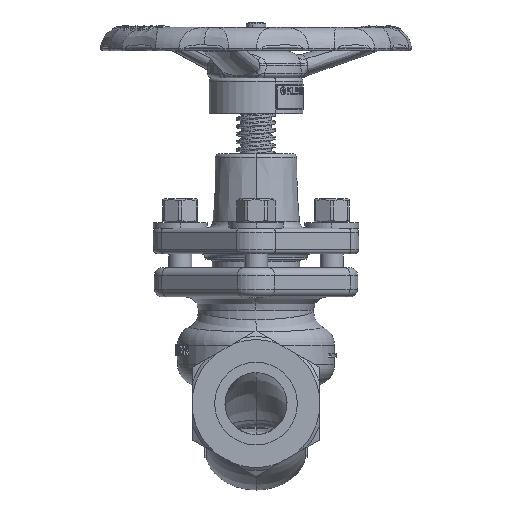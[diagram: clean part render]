
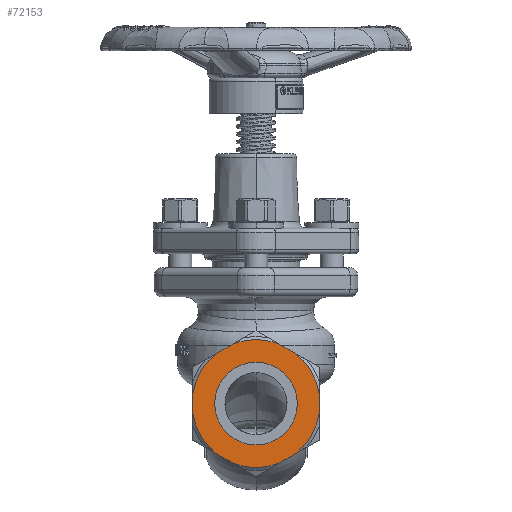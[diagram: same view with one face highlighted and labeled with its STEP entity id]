
A CAD part, left-side view. The second image highlights one B-rep face of the part: STEP entity #72153.
In plain terms, the highlighted planar face has unit normal (-1, 0, 0).
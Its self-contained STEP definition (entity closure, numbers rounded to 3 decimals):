
#14688=DIRECTION('',(0.,0.866,0.5));
#14689=VECTOR('',#14688,10.452);
#14690=CARTESIAN_POINT('',(-80.,-20.776,25.533));
#14691=LINE('',#14690,#14689);
#14696=CARTESIAN_POINT('',(-80.,0.,0.));
#14697=DIRECTION('',(1.,0.,0.));
#14698=DIRECTION('',(0.,0.,1.));
#14699=AXIS2_PLACEMENT_3D('',#14696,#14697,#14698);
#14701=CARTESIAN_POINT('',(-80.,0.,0.));
#14702=DIRECTION('',(1.,0.,0.));
#14703=DIRECTION('',(0.,0.,-1.));
#14704=AXIS2_PLACEMENT_3D('',#14701,#14702,#14703);
#14720=CARTESIAN_POINT('',(-80.,0.,0.));
#14721=DIRECTION('',(-1.,0.,0.));
#14722=DIRECTION('',(0.,0.356,-0.934));
#14723=AXIS2_PLACEMENT_3D('',#14720,#14721,#14722);
#14756=DIRECTION('',(0.,-0.866,0.5));
#14757=VECTOR('',#14756,10.452);
#14758=CARTESIAN_POINT('',(-80.,-11.724,-30.759));
#14759=LINE('',#14758,#14757);
#14764=CARTESIAN_POINT('',(-80.,0.,0.));
#14765=DIRECTION('',(-1.,0.,0.));
#14766=DIRECTION('',(0.,-0.631,-0.776));
#14767=AXIS2_PLACEMENT_3D('',#14764,#14765,#14766);
#14787=DIRECTION('',(0.,0.,1.));
#14788=VECTOR('',#14787,10.452);
#14789=CARTESIAN_POINT('',(-80.,-32.5,-5.226));
#14790=LINE('',#14789,#14788);
#14795=CARTESIAN_POINT('',(-80.,0.,0.));
#14796=DIRECTION('',(-1.,0.,0.));
#14797=DIRECTION('',(0.,-0.987,0.159));
#14798=AXIS2_PLACEMENT_3D('',#14795,#14796,#14797);
#14994=DIRECTION('',(0.,-0.866,-0.5));
#14995=VECTOR('',#14994,10.452);
#14996=CARTESIAN_POINT('',(-80.,20.776,-25.533));
#14997=LINE('',#14996,#14995);
#15041=DIRECTION('',(0.,0.,-1.));
#15042=VECTOR('',#15041,10.452);
#15043=CARTESIAN_POINT('',(-80.,32.5,5.226));
#15044=LINE('',#15043,#15042);
#15049=CARTESIAN_POINT('',(-80.,0.,0.));
#15050=DIRECTION('',(-1.,0.,0.));
#15051=DIRECTION('',(0.,0.987,-0.159));
#15052=AXIS2_PLACEMENT_3D('',#15049,#15050,#15051);
#15138=DIRECTION('',(0.,0.866,-0.5));
#15139=VECTOR('',#15138,10.452);
#15140=CARTESIAN_POINT('',(-80.,11.724,30.759));
#15141=LINE('',#15140,#15139);
#15146=CARTESIAN_POINT('',(-80.,0.,0.));
#15147=DIRECTION('',(-1.,0.,0.));
#15148=DIRECTION('',(0.,0.631,0.776));
#15149=AXIS2_PLACEMENT_3D('',#15146,#15147,#15148);
#15218=CARTESIAN_POINT('',(-80.,0.,0.));
#15219=DIRECTION('',(-1.,0.,0.));
#15220=DIRECTION('',(0.,-0.356,0.934));
#15221=AXIS2_PLACEMENT_3D('',#15218,#15219,#15220);
#40099=CARTESIAN_POINT('',(-80.,-20.776,-25.533));
#40100=CARTESIAN_POINT('',(-80.,-32.5,-5.226));
#40101=VERTEX_POINT('',#40099);
#40102=VERTEX_POINT('',#40100);
#40103=CARTESIAN_POINT('',(-80.,-32.5,5.226));
#40104=CARTESIAN_POINT('',(-80.,-20.776,25.533));
#40105=VERTEX_POINT('',#40103);
#40106=VERTEX_POINT('',#40104);
#40107=CARTESIAN_POINT('',(-80.,20.776,25.533));
#40108=CARTESIAN_POINT('',(-80.,32.5,5.226));
#40109=VERTEX_POINT('',#40107);
#40110=VERTEX_POINT('',#40108);
#40111=CARTESIAN_POINT('',(-80.,32.5,-5.226));
#40112=CARTESIAN_POINT('',(-80.,20.776,-25.533));
#40113=VERTEX_POINT('',#40111);
#40114=VERTEX_POINT('',#40112);
#40131=CARTESIAN_POINT('',(-80.,-11.724,-30.759));
#40132=VERTEX_POINT('',#40131);
#40135=CARTESIAN_POINT('',(-80.,-11.724,30.759));
#40136=VERTEX_POINT('',#40135);
#40139=CARTESIAN_POINT('',(-80.,11.724,30.759));
#40140=VERTEX_POINT('',#40139);
#40143=CARTESIAN_POINT('',(-80.,11.724,-30.759));
#40144=VERTEX_POINT('',#40143);
#40205=CARTESIAN_POINT('',(-80.,0.,21.3));
#40206=VERTEX_POINT('',#40205);
#40209=CARTESIAN_POINT('',(-80.,0.,-21.3));
#40210=VERTEX_POINT('',#40209);
#72117=CARTESIAN_POINT('',(-80.,0.,0.));
#72118=DIRECTION('',(-1.,0.,0.));
#72119=DIRECTION('',(0.,0.,1.));
#72120=AXIS2_PLACEMENT_3D('',#72117,#72118,#72119);
#72121=PLANE('',#72120);
#72123=ORIENTED_EDGE('',*,*,#72122,.F.);
#72125=ORIENTED_EDGE('',*,*,#72124,.F.);
#72127=ORIENTED_EDGE('',*,*,#72126,.F.);
#72129=ORIENTED_EDGE('',*,*,#72128,.F.);
#72131=ORIENTED_EDGE('',*,*,#72130,.F.);
#72133=ORIENTED_EDGE('',*,*,#72132,.F.);
#72135=ORIENTED_EDGE('',*,*,#72134,.F.);
#72136=ORIENTED_EDGE('',*,*,#72096,.F.);
#72138=ORIENTED_EDGE('',*,*,#72137,.F.);
#72140=ORIENTED_EDGE('',*,*,#72139,.F.);
#72142=ORIENTED_EDGE('',*,*,#72141,.F.);
#72144=ORIENTED_EDGE('',*,*,#72143,.F.);
#72145=EDGE_LOOP('',(#72123,#72125,#72127,#72129,#72131,#72133,#72135,#72136,
#72138,#72140,#72142,#72144));
#72146=FACE_OUTER_BOUND('',#72145,.F.);
#72148=ORIENTED_EDGE('',*,*,#72147,.F.);
#72150=ORIENTED_EDGE('',*,*,#72149,.F.);
#72151=EDGE_LOOP('',(#72148,#72150));
#72152=FACE_BOUND('',#72151,.F.);
#14700=CIRCLE('',#14699,21.3);
#14705=CIRCLE('',#14704,21.3);
#14724=CIRCLE('',#14723,32.918);
#14768=CIRCLE('',#14767,32.918);
#14799=CIRCLE('',#14798,32.918);
#15053=CIRCLE('',#15052,32.918);
#15150=CIRCLE('',#15149,32.918);
#15222=CIRCLE('',#15221,32.918);
#72096=EDGE_CURVE('',#40106,#40136,#14691,.T.);
#72122=EDGE_CURVE('',#40144,#40132,#14724,.T.);
#72124=EDGE_CURVE('',#40114,#40144,#14997,.T.);
#72126=EDGE_CURVE('',#40113,#40114,#15053,.T.);
#72128=EDGE_CURVE('',#40110,#40113,#15044,.T.);
#72130=EDGE_CURVE('',#40109,#40110,#15150,.T.);
#72132=EDGE_CURVE('',#40140,#40109,#15141,.T.);
#72134=EDGE_CURVE('',#40136,#40140,#15222,.T.);
#72137=EDGE_CURVE('',#40105,#40106,#14799,.T.);
#72139=EDGE_CURVE('',#40102,#40105,#14790,.T.);
#72141=EDGE_CURVE('',#40101,#40102,#14768,.T.);
#72143=EDGE_CURVE('',#40132,#40101,#14759,.T.);
#72147=EDGE_CURVE('',#40206,#40210,#14700,.T.);
#72149=EDGE_CURVE('',#40210,#40206,#14705,.T.);
#72153=ADVANCED_FACE('',(#72146,#72152),#72121,.T.);
